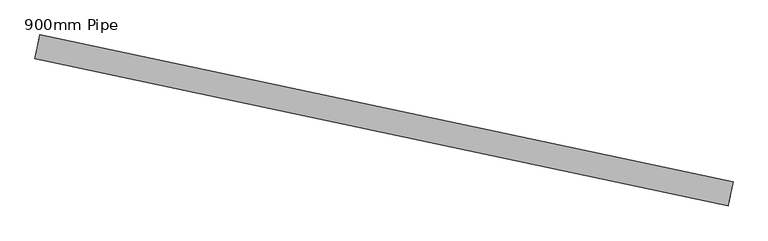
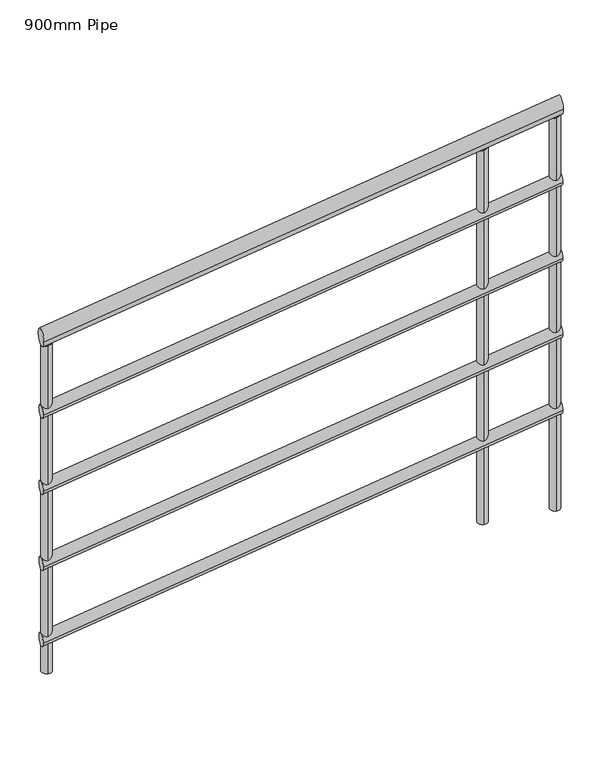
"""IFC4 building model written with IfcOpenShell, lengths in millimetres: railing geometry, 900mm Pipe."""

from ifc_helpers import new_model, si_unit, frame, origin, place, context, project, spatial, circle_curve, ellipse_curve, source, transform, mapped, element, save
from ifc_brep_helpers import plane_surface, cylinder_surface, advanced_brep


def railing_900mm_pipe_afd1aac6(model_context):
    return source(origin(), model_context, "Body", "AdvancedBrep", [
        advanced_brep(
        [(943672.6608413, 4606.8750836, 8558.386247), (943680.9886583, 4645.9985735, 8558.386247), (944823.6949867, 4361.8662217, 8916.9744823), (944832.0228038, 4400.9897116, 8916.9744823)],
        [
            (0, 1, ellipse_curve(frame((943676.8247498, 4626.4368286, 8558.386247), z_axis=(-0.9780872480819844, 0.20819542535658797, 0.0), x_axis=(0.0, 0.0, -1.0)), 20.9078706, 20.0)),
            (1, 0, ellipse_curve(frame((943676.8247498, 4626.4368286, 8558.386247), z_axis=(-0.9780872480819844, 0.20819542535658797, 0.0), x_axis=(0.0, 0.0, -1.0)), 20.9078706, 20.0)),
            (2, 3, ellipse_curve(frame((944827.8588952, 4381.4279667, 8916.9744823), z_axis=(0.9780872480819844, -0.20819542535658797, 0.0), x_axis=(0.0, 0.0, -1.0)), 20.9078706, 20.0)),
            (3, 2, ellipse_curve(frame((944827.8588952, 4381.4279667, 8916.9744823), z_axis=(0.9780872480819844, -0.20819542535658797, 0.0), x_axis=(0.0, 0.0, -1.0)), 20.9078706, 20.0)),
            (1, 3),
            (2, 0),
        ],
        [
            plane_surface(frame((943676.8247498, 4626.4368286, 8579.2941176), z_axis=(-0.9780872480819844, 0.20819542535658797, 0.0), x_axis=(0.20819542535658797, 0.9780872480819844, 0.0))),
            plane_surface(frame((944827.8588952, 4381.4279667, 8937.8823529), z_axis=(0.9780872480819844, -0.20819542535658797, 0.0), x_axis=(0.20819542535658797, 0.9780872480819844, 0.0))),
            cylinder_surface(frame((943682.526566, 4625.2231413, 8560.1625663), z_axis=(-0.9356163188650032, 0.1991550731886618, -0.2914778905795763), x_axis=(0.208195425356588, 0.9780872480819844, 0.0)), 20.0),
        ],
        [
            (0, [[1, 2]]),
            (1, [[3, 4]]),
            (2, [[-2, 5, -3, 6]]),
            (2, [[-1, -6, -4, -5]]),
        ],
    ),
        advanced_brep(
        [(943673.7018184, 4611.7655199, 8363.6132147), (943679.9476812, 4641.1081373, 8363.6132147), (944824.7359639, 4366.7566579, 8722.20145), (944830.9818266, 4396.0992754, 8722.20145)],
        [
            (0, 1, ellipse_curve(frame((943676.8247498, 4626.4368286, 8363.6132147), z_axis=(-0.9780872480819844, 0.20819542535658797, 0.0), x_axis=(0.0, 0.0, -1.0)), 15.680903, 15.0)),
            (1, 0, ellipse_curve(frame((943676.8247498, 4626.4368286, 8363.6132147), z_axis=(-0.9780872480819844, 0.20819542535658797, 0.0), x_axis=(0.0, 0.0, -1.0)), 15.680903, 15.0)),
            (2, 3, ellipse_curve(frame((944827.8588952, 4381.4279667, 8722.20145), z_axis=(0.9780872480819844, -0.20819542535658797, 0.0), x_axis=(0.0, 0.0, -1.0)), 15.680903, 15.0)),
            (3, 2, ellipse_curve(frame((944827.8588952, 4381.4279667, 8722.20145), z_axis=(0.9780872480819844, -0.20819542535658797, 0.0), x_axis=(0.0, 0.0, -1.0)), 15.680903, 15.0)),
            (0, 2),
            (3, 1),
        ],
        [
            plane_surface(frame((943676.8247498, 4626.4368286, 8379.2941176), z_axis=(-0.9780872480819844, 0.20819542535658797, 0.0), x_axis=(0.20819542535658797, 0.9780872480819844, 0.0))),
            plane_surface(frame((944827.8588952, 4381.4279667, 8737.8823529), z_axis=(0.9780872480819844, -0.20819542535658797, 0.0), x_axis=(0.20819542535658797, 0.9780872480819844, 0.0))),
            cylinder_surface(frame((943681.1011119, 4625.5265631, 8364.9454542), z_axis=(-0.9356163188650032, 0.1991550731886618, -0.2914778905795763), x_axis=(0.208195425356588, 0.9780872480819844, 0.0)), 15.0),
        ],
        [
            (0, [[1, 2]]),
            (1, [[3, 4]]),
            (2, [[-1, 5, -4, 6]]),
            (2, [[-2, -6, -3, -5]]),
        ],
    ),
        advanced_brep(
        [(943673.7018184, 4611.7655199, 8163.6132147), (943679.9476812, 4641.1081373, 8163.6132147), (944824.7359639, 4366.7566579, 8522.20145), (944830.9818266, 4396.0992754, 8522.20145)],
        [
            (0, 1, ellipse_curve(frame((943676.8247498, 4626.4368286, 8163.6132147), z_axis=(-0.9780872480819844, 0.20819542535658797, 0.0), x_axis=(0.0, 0.0, -1.0)), 15.680903, 15.0)),
            (1, 0, ellipse_curve(frame((943676.8247498, 4626.4368286, 8163.6132147), z_axis=(-0.9780872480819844, 0.20819542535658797, 0.0), x_axis=(0.0, 0.0, -1.0)), 15.680903, 15.0)),
            (2, 3, ellipse_curve(frame((944827.8588952, 4381.4279667, 8522.20145), z_axis=(0.9780872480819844, -0.20819542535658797, 0.0), x_axis=(0.0, 0.0, -1.0)), 15.680903, 15.0)),
            (3, 2, ellipse_curve(frame((944827.8588952, 4381.4279667, 8522.20145), z_axis=(0.9780872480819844, -0.20819542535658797, 0.0), x_axis=(0.0, 0.0, -1.0)), 15.680903, 15.0)),
            (0, 2),
            (3, 1),
        ],
        [
            plane_surface(frame((943676.8247498, 4626.4368286, 8179.2941176), z_axis=(-0.9780872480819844, 0.20819542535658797, 0.0), x_axis=(0.20819542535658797, 0.9780872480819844, 0.0))),
            plane_surface(frame((944827.8588952, 4381.4279667, 8537.8823529), z_axis=(0.9780872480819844, -0.20819542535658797, 0.0), x_axis=(0.20819542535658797, 0.9780872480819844, 0.0))),
            cylinder_surface(frame((943681.1011119, 4625.5265631, 8164.9454542), z_axis=(-0.9356163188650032, 0.1991550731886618, -0.2914778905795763), x_axis=(0.208195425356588, 0.9780872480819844, 0.0)), 15.0),
        ],
        [
            (0, [[1, 2]]),
            (1, [[3, 4]]),
            (2, [[-1, 5, -4, 6]]),
            (2, [[-2, -6, -3, -5]]),
        ],
    ),
        advanced_brep(
        [(943673.7018184, 4611.7655199, 7963.6132147), (943679.9476812, 4641.1081373, 7963.6132147), (944824.7359639, 4366.7566579, 8322.20145), (944830.9818266, 4396.0992754, 8322.20145)],
        [
            (0, 1, ellipse_curve(frame((943676.8247498, 4626.4368286, 7963.6132147), z_axis=(-0.9780872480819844, 0.20819542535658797, 0.0), x_axis=(0.0, 0.0, -1.0)), 15.680903, 15.0)),
            (1, 0, ellipse_curve(frame((943676.8247498, 4626.4368286, 7963.6132147), z_axis=(-0.9780872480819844, 0.20819542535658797, 0.0), x_axis=(0.0, 0.0, -1.0)), 15.680903, 15.0)),
            (2, 3, ellipse_curve(frame((944827.8588952, 4381.4279667, 8322.20145), z_axis=(0.9780872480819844, -0.20819542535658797, 0.0), x_axis=(0.0, 0.0, -1.0)), 15.680903, 15.0)),
            (3, 2, ellipse_curve(frame((944827.8588952, 4381.4279667, 8322.20145), z_axis=(0.9780872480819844, -0.20819542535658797, 0.0), x_axis=(0.0, 0.0, -1.0)), 15.680903, 15.0)),
            (0, 2),
            (3, 1),
        ],
        [
            plane_surface(frame((943676.8247498, 4626.4368286, 7979.2941176), z_axis=(-0.9780872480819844, 0.20819542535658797, 0.0), x_axis=(0.20819542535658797, 0.9780872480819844, 0.0))),
            plane_surface(frame((944827.8588952, 4381.4279667, 8337.8823529), z_axis=(0.9780872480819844, -0.20819542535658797, 0.0), x_axis=(0.20819542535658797, 0.9780872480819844, 0.0))),
            cylinder_surface(frame((943681.1011119, 4625.5265631, 7964.9454542), z_axis=(-0.9356163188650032, 0.1991550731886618, -0.2914778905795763), x_axis=(0.208195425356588, 0.9780872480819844, 0.0)), 15.0),
        ],
        [
            (0, [[1, 2]]),
            (1, [[3, 4]]),
            (2, [[-1, 5, -4, 6]]),
            (2, [[-2, -6, -3, -5]]),
        ],
    ),
        advanced_brep(
        [(943673.7018184, 4611.7655199, 7763.6132147), (943679.9476812, 4641.1081373, 7763.6132147), (944824.7359639, 4366.7566579, 8122.20145), (944830.9818266, 4396.0992754, 8122.20145)],
        [
            (0, 1, ellipse_curve(frame((943676.8247498, 4626.4368286, 7763.6132147), z_axis=(-0.9780872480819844, 0.20819542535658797, 0.0), x_axis=(0.0, 0.0, -1.0)), 15.680903, 15.0)),
            (1, 0, ellipse_curve(frame((943676.8247498, 4626.4368286, 7763.6132147), z_axis=(-0.9780872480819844, 0.20819542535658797, 0.0), x_axis=(0.0, 0.0, -1.0)), 15.680903, 15.0)),
            (2, 3, ellipse_curve(frame((944827.8588952, 4381.4279667, 8122.20145), z_axis=(0.9780872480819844, -0.20819542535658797, 0.0), x_axis=(0.0, 0.0, -1.0)), 15.680903, 15.0)),
            (3, 2, ellipse_curve(frame((944827.8588952, 4381.4279667, 8122.20145), z_axis=(0.9780872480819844, -0.20819542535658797, 0.0), x_axis=(0.0, 0.0, -1.0)), 15.680903, 15.0)),
            (0, 2),
            (3, 1),
        ],
        [
            plane_surface(frame((943676.8247498, 4626.4368286, 7779.2941176), z_axis=(-0.9780872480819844, 0.20819542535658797, 0.0), x_axis=(0.20819542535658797, 0.9780872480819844, 0.0))),
            plane_surface(frame((944827.8588952, 4381.4279667, 8137.8823529), z_axis=(0.9780872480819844, -0.20819542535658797, 0.0), x_axis=(0.20819542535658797, 0.9780872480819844, 0.0))),
            cylinder_surface(frame((943681.1011119, 4625.5265631, 7764.9454542), z_axis=(-0.9356163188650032, 0.1991550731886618, -0.2914778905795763), x_axis=(0.208195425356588, 0.9780872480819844, 0.0)), 15.0),
        ],
        [
            (0, [[1, 2]]),
            (1, [[3, 4]]),
            (2, [[-1, 5, -4, 6]]),
            (2, [[-2, -6, -3, -5]]),
        ],
    ),
        advanced_brep(
        [(944657.5144407, 4430.4674938, 8842.1874779), (944652.3095551, 4406.0153126, 8842.1874779), (944652.3095551, 4406.0153126, 7858.5882353), (944657.5144407, 4430.4674938, 7858.5882353)],
        [
            (0, 1, ellipse_curve(frame((944654.9119979, 4418.2414032, 8842.1874779), z_axis=(0.28509080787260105, -0.0606843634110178, -0.9565775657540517), x_axis=(0.9356163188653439, -0.19915507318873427, 0.29147789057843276)), 13.0674191, 12.5)),
            (1, 2),
            (2, 3, circle_curve(frame((944654.9119979, 4418.2414032, 7858.5882353), z_axis=(0.0, 0.0, 1.0), x_axis=(-0.20819542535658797, -0.9780872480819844, 0.0)), 12.5)),
            (3, 0),
            (3, 2, circle_curve(frame((944654.9119979, 4418.2414032, 7858.5882353), z_axis=(0.0, 0.0, 1.0), x_axis=(-0.20819542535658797, -0.9780872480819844, 0.0)), 12.5)),
            (1, 0, ellipse_curve(frame((944654.9119979, 4418.2414032, 8842.1874779), z_axis=(0.28509080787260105, -0.0606843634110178, -0.9565775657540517), x_axis=(0.9356163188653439, -0.19915507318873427, 0.29147789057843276)), 13.0674191, 12.5)),
        ],
        [
            cylinder_surface(frame((944654.9119979, 4418.2414032, 7758.5882353), z_axis=(0.0, 0.0, 1.0), x_axis=(-0.20819542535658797, -0.9780872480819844, 0.0)), 12.5),
            plane_surface(frame((944674.1592935, 4388.5843364, 8849.8052054), z_axis=(-0.28509080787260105, 0.0606843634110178, 0.9565775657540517), x_axis=(0.20819542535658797, 0.9780872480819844, 0.0))),
            plane_surface(frame((944625.2549311, 4398.9941077, 7858.5882353), z_axis=(0.0, 0.0, -1.0), x_axis=(0.20819542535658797, 0.9780872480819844, 0.0))),
        ],
        [
            (0, [[1, 2, 3, 4]]),
            (0, [[5, -2, 6, -4]]),
            (1, [[-6, -1]]),
            (2, [[-5, -3]]),
        ],
    ),
        advanced_brep(
        [(944818.2352475, 4396.2565001, 8892.2577479), (944813.0303618, 4371.8043189, 8892.2577479), (944813.0303618, 4371.8043189, 7858.5882353), (944818.2352475, 4396.2565001, 7858.5882353)],
        [
            (0, 1, ellipse_curve(frame((944815.6328046, 4384.0304095, 8892.2577479), z_axis=(0.2850908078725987, -0.06068436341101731, -0.9565775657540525), x_axis=(0.9356163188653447, -0.19915507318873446, 0.2914778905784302)), 13.0674191, 12.5)),
            (1, 2),
            (2, 3, circle_curve(frame((944815.6328046, 4384.0304095, 7858.5882353), z_axis=(0.0, 0.0, 1.0), x_axis=(-0.20819542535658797, -0.9780872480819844, 0.0)), 12.5)),
            (3, 0),
            (3, 2, circle_curve(frame((944815.6328046, 4384.0304095, 7858.5882353), z_axis=(0.0, 0.0, 1.0), x_axis=(-0.20819542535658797, -0.9780872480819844, 0.0)), 12.5)),
            (1, 0, ellipse_curve(frame((944815.6328046, 4384.0304095, 8892.2577479), z_axis=(0.2850908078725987, -0.06068436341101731, -0.9565775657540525), x_axis=(0.9356163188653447, -0.19915507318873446, 0.2914778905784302)), 13.0674191, 12.5)),
        ],
        [
            cylinder_surface(frame((944815.6328046, 4384.0304095, 7758.5882353), z_axis=(0.0, 0.0, 1.0), x_axis=(-0.20819542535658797, -0.9780872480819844, 0.0)), 12.5),
            plane_surface(frame((944834.8801002, 4354.3733427, 8899.8754754), z_axis=(-0.2850908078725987, 0.06068436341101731, 0.9565775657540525), x_axis=(0.20819542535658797, 0.9780872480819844, 0.0))),
            plane_surface(frame((944785.9757378, 4364.7831139, 7858.5882353), z_axis=(0.0, 0.0, -1.0), x_axis=(0.20819542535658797, 0.9780872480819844, 0.0))),
        ],
        [
            (0, [[1, 2, 3, 4]]),
            (0, [[5, -2, 6, -4]]),
            (1, [[-6, -1]]),
            (2, [[-5, -3]]),
        ],
    ),
        advanced_brep(
        [(943691.6532832, 4636.0604764, 8541.2872401), (943686.4483976, 4611.6082952, 8541.2872401), (943686.4483976, 4611.6082952, 7679.2941176), (943691.6532832, 4636.0604764, 7679.2941176)],
        [
            (0, 1, ellipse_curve(frame((943689.0508404, 4623.8343858, 8541.2872401), z_axis=(0.28509080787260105, -0.0606843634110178, -0.9565775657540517), x_axis=(0.9356163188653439, -0.19915507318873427, 0.29147789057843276)), 13.0674191, 12.5)),
            (1, 2),
            (2, 3, circle_curve(frame((943689.0508404, 4623.8343858, 7679.2941176), z_axis=(0.0, 0.0, 1.0), x_axis=(-0.20819542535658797, -0.9780872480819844, 0.0)), 12.5)),
            (3, 0),
            (3, 2, circle_curve(frame((943689.0508404, 4623.8343858, 7679.2941176), z_axis=(0.0, 0.0, 1.0), x_axis=(-0.20819542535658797, -0.9780872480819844, 0.0)), 12.5)),
            (1, 0, ellipse_curve(frame((943689.0508404, 4623.8343858, 8541.2872401), z_axis=(0.28509080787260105, -0.0606843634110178, -0.9565775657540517), x_axis=(0.9356163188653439, -0.19915507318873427, 0.29147789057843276)), 13.0674191, 12.5)),
        ],
        [
            cylinder_surface(frame((943689.0508404, 4623.8343858, 7579.2941176), z_axis=(0.0, 0.0, 1.0), x_axis=(-0.20819542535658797, -0.9780872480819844, 0.0)), 12.5),
            plane_surface(frame((943708.298136, 4594.1773189, 8548.9049677), z_axis=(-0.28509080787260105, 0.0606843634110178, 0.9565775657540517), x_axis=(0.20819542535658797, 0.9780872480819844, 0.0))),
            plane_surface(frame((943659.3937736, 4604.5870902, 7679.2941176), z_axis=(0.0, 0.0, -1.0), x_axis=(0.20819542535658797, 0.9780872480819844, 0.0))),
        ],
        [
            (0, [[1, 2, 3, 4]]),
            (0, [[5, -2, 6, -4]]),
            (1, [[-6, -1]]),
            (2, [[-5, -3]]),
        ],
    ),
    ])


if __name__ == "__main__":
    model = new_model("IFC4")
    model_context = context("Model", 3, world=origin())
    ifc_project = project(units=[si_unit("LENGTHUNIT", "METRE", prefix="MILLI")], contexts=[model_context])
    site = spatial("IfcSite", under=ifc_project)
    building = spatial("IfcBuilding", under=site)
    placement = place(None, origin())
    railing_900mm_pipe_shape = railing_900mm_pipe_afd1aac6(model_context)
    element("IfcRailing", 1, ObjectType="900mm Pipe", at=placement, inside=building, context=model_context, shape_type="MappedRepresentation", body=[
        mapped(railing_900mm_pipe_shape, transform((0.0, 0.0, 0.0), x_axis=(1.0, 0.0, 0.0), y_axis=(0.0, 1.0, 0.0), z_axis=(0.0, 0.0, 1.0))),
    ])
    save(model, "model.ifc")
